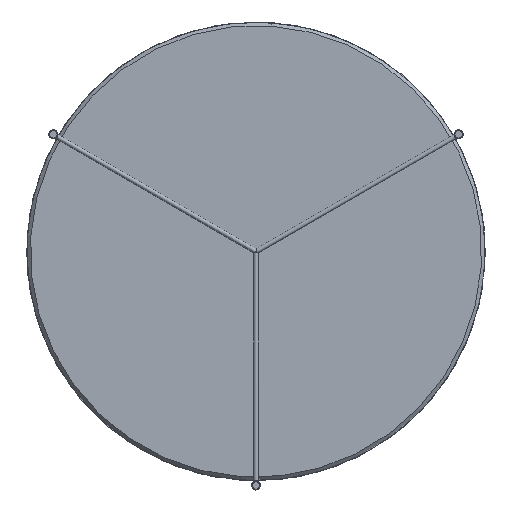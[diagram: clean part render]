
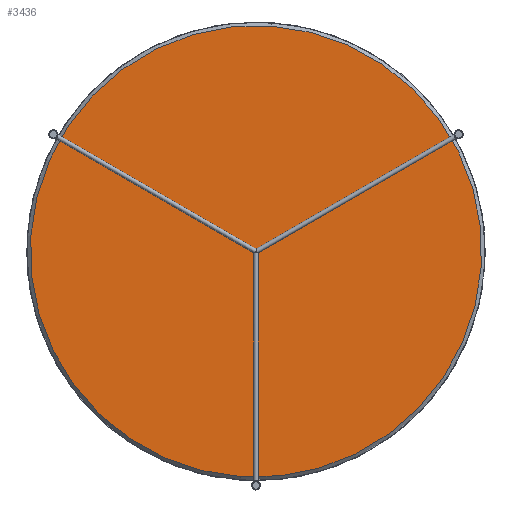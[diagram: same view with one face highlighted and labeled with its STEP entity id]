
A CAD part, front view. The second image highlights one B-rep face of the part: STEP entity #3436.
In plain terms, the highlighted planar face has unit normal (0, -1, 0).
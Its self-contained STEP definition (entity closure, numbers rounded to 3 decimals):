
#66 = DIRECTION ( 'NONE',  ( 0., 0., -1. ) ) ;
#71 = EDGE_CURVE ( 'NONE', #3101, #2566, #1962, .T. ) ;
#165 = PLANE ( 'NONE',  #1078 ) ;
#262 = AXIS2_PLACEMENT_3D ( 'NONE', #2226, #3667, #66 ) ;
#357 = ORIENTED_EDGE ( 'NONE', *, *, #71, .T. ) ;
#536 = DIRECTION ( 'NONE',  ( 0., 0., -1. ) ) ;
#643 = EDGE_LOOP ( 'NONE', ( #357, #1153 ) ) ;
#732 = AXIS2_PLACEMENT_3D ( 'NONE', #4514, #3765, #3417 ) ;
#1078 = AXIS2_PLACEMENT_3D ( 'NONE', #1582, #1944, #536 ) ;
#1153 = ORIENTED_EDGE ( 'NONE', *, *, #4262, .T. ) ;
#1582 = CARTESIAN_POINT ( 'NONE',  ( 0., 0., 0. ) ) ;
#1631 = FACE_OUTER_BOUND ( 'NONE', #643, .T. ) ;
#1944 = DIRECTION ( 'NONE',  ( 0., -1., 0. ) ) ;
#1962 = CIRCLE ( 'NONE', #732, 492. ) ;
#2040 = CARTESIAN_POINT ( 'NONE',  ( 0., 0., 492. ) ) ;
#2226 = CARTESIAN_POINT ( 'NONE',  ( 0., 0., 0. ) ) ;
#2566 = VERTEX_POINT ( 'NONE', #3402 ) ;
#3101 = VERTEX_POINT ( 'NONE', #2040 ) ;
#3402 = CARTESIAN_POINT ( 'NONE',  ( 0., 0., -492. ) ) ;
#3417 = DIRECTION ( 'NONE',  ( 0., 0., -1. ) ) ;
#3436 = ADVANCED_FACE ( 'NONE', ( #1631 ), #165, .T. ) ;
#3667 = DIRECTION ( 'NONE',  ( 0., -1., 0. ) ) ;
#3765 = DIRECTION ( 'NONE',  ( 0., -1., 0. ) ) ;
#4057 = CIRCLE ( 'NONE', #262, 492. ) ;
#4262 = EDGE_CURVE ( 'NONE', #2566, #3101, #4057, .T. ) ;
#4514 = CARTESIAN_POINT ( 'NONE',  ( 0., 0., 0. ) ) ;
